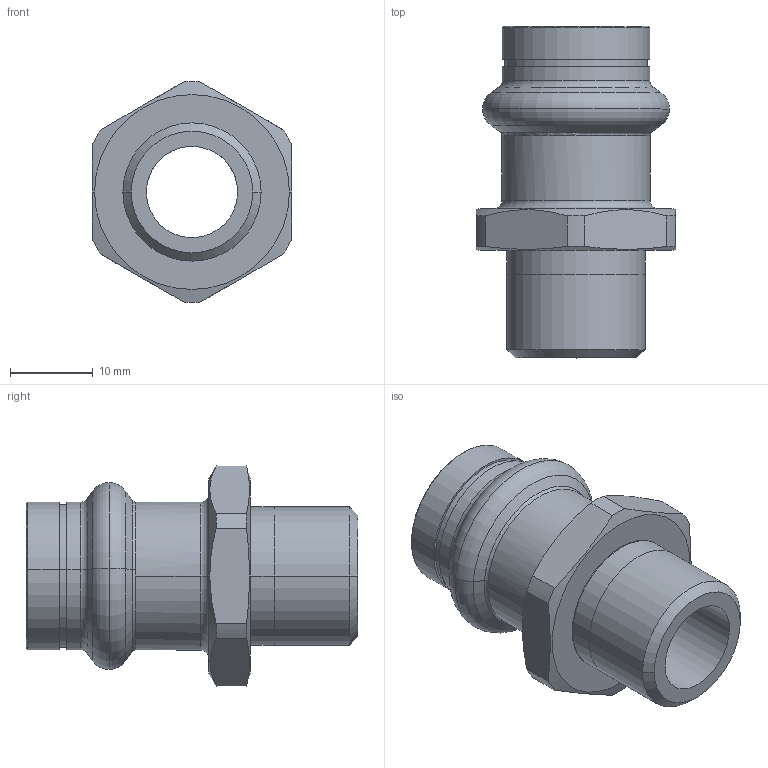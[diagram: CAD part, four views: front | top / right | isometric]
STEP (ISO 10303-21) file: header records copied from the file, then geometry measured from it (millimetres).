
FILE_DESCRIPTION(('CoCreate Modeling STEP Export'),'2;1');
FILE_NAME('8243GVW1538.stp','2013-03-05T10:27:44',(''),(''),'CoCreate Modeling STEP processor for AP214 (Solid Model)','CoCreate Modeling 17.00A 17-Jun-2010 (C) Parametric Technology GmbH','');
FILE_SCHEMA(('AUTOMOTIVE_DESIGN { 1 0 10303 214 1 1 1 1 }'));
Length unit declared in the file: millimetre
Products named in the file (1): 8243GVW1538
Bounding box: 24 x 40 x 26.59 mm (x, y, z)
Volume: 5630.2 mm3; surface area: 4972.8 mm2
Topology: 1 solids, 1 shells, 68 faces, 158 edges, 98 vertices
Faces by surface type: cylinder 28, cone 16, plane 14, torus 10
Entity records: 2278 total; most frequent: CARTESIAN_POINT 943, ORIENTED_EDGE 316, DIRECTION 210, EDGE_CURVE 158, VERTEX_POINT 98, AXIS2_PLACEMENT_3D 80, EDGE_LOOP 76, FACE_OUTER_BOUND 68
